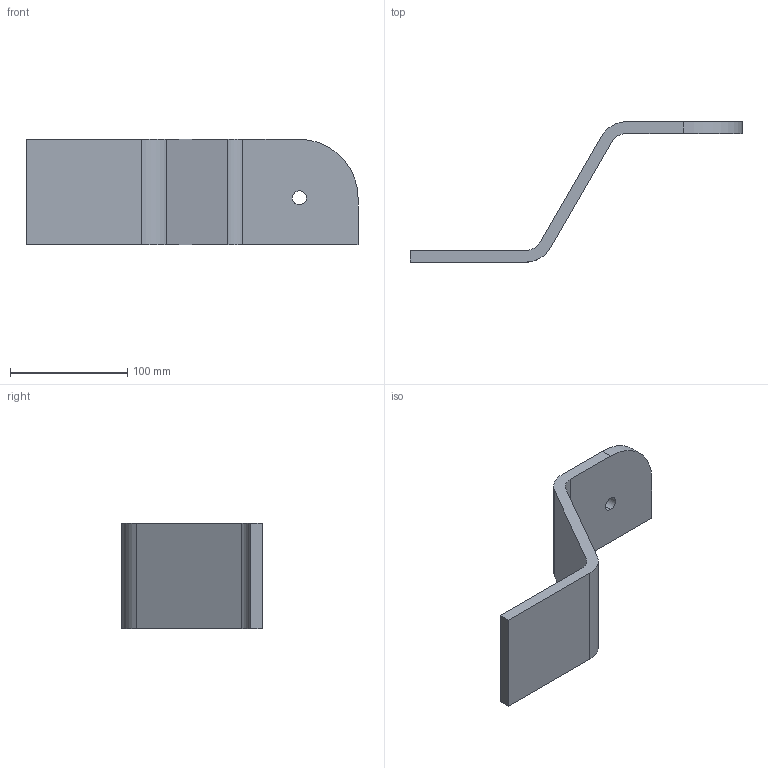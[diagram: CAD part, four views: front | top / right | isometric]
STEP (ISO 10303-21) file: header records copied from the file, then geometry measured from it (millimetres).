
FILE_DESCRIPTION (( 'STEP AP214' ), '1' );
FILE_NAME ('Ej08-v01.STEP', '2012-02-01T15:47:25', ( '' ), ( '' ), 'SwSTEP 2.0', 'SolidWorks 2011', '' );
FILE_SCHEMA (( 'AUTOMOTIVE_DESIGN' ));
Length unit declared in the file: millimetre
Products named in the file (1): Ej08-v01
Bounding box: 283.51 x 120 x 90 mm (x, y, z)
Volume: 301949.2 mm3; surface area: 69206.6 mm2
Topology: 1 solids, 1 shells, 17 faces, 45 edges, 30 vertices
Faces by surface type: plane 10, cylinder 7
Entity records: 571 total; most frequent: DIRECTION 95, CARTESIAN_POINT 93, ORIENTED_EDGE 90, EDGE_CURVE 45, AXIS2_PLACEMENT_3D 32, LINE 31, VECTOR 31, VERTEX_POINT 30
